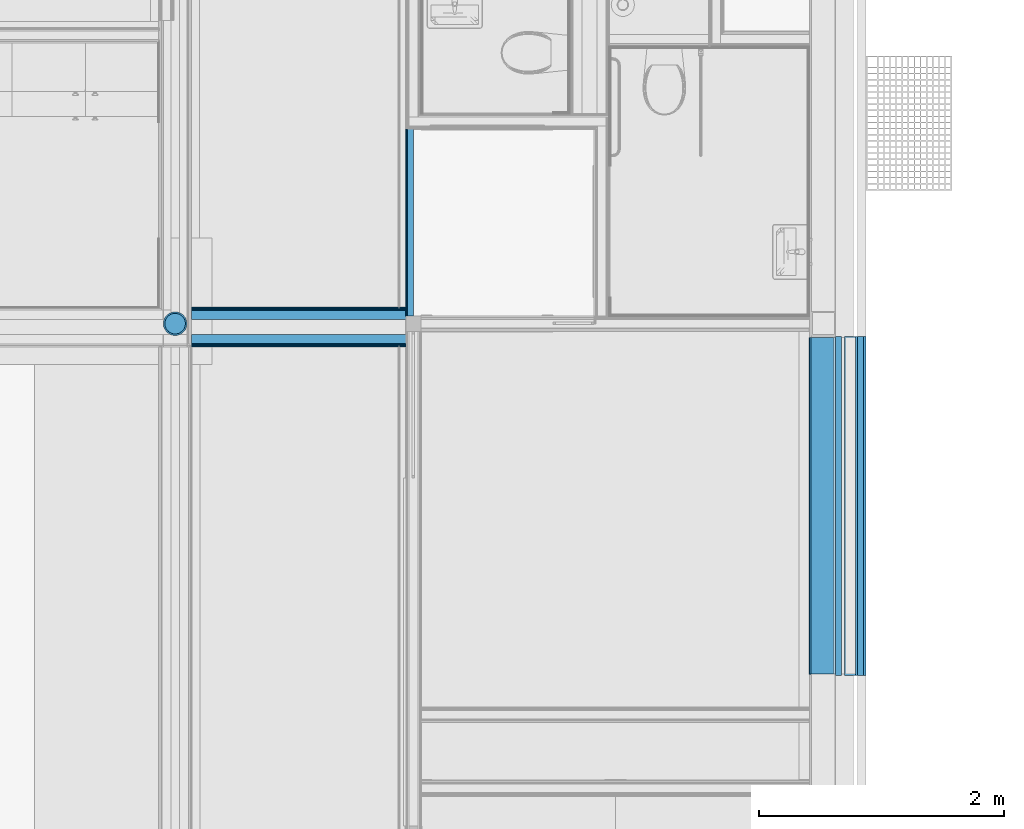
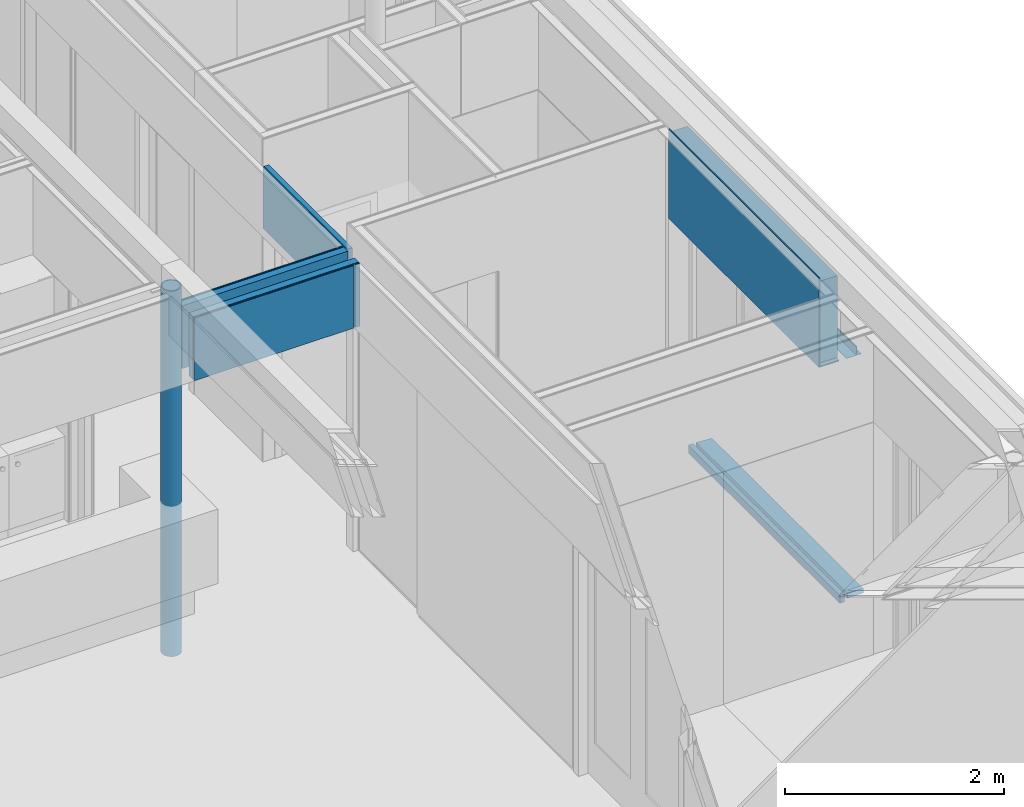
# One storey, part 70 of 165: 17 building element parts, 6 elements without a shape of their own.
"""IFC2X3 building model written with IfcOpenShell, lengths in millimetres."""

from ifc_helpers import new_model, entity, si_unit, converted_unit, derived_unit, money_unit, direction, frame, origin_with_axes, place, context, subcontext, project, spatial, faceted_brep, material, type_object, element, aggregate, save


model = new_model("IFC2X3")

# Units and contexts
model_context = context("Model", 3, precision=0.01, world=origin_with_axes(), true_north=direction((0.0, 1.0)))
body_context = subcontext(model_context, "Body", "Model", "MODEL_VIEW")
ifc_project = project(units=[si_unit("LENGTHUNIT", "METRE", prefix="MILLI"), si_unit("AREAUNIT", "SQUARE_METRE"), si_unit("VOLUMEUNIT", "CUBIC_METRE"), converted_unit("PLANEANGLEUNIT", "DEGREE", entity("IfcPlaneAngleMeasure", 0.0174532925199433), si_unit("PLANEANGLEUNIT", "RADIAN"), dimensions=[0, 0, 0, 0, 0, 0, 0]), money_unit("EUR"), converted_unit("TIMEUNIT", "Year", entity("IfcTimeMeasure", 31556926.0), si_unit("TIMEUNIT", "SECOND"), dimensions=[0, 0, 1, 0, 0, 0, 0]), si_unit("MASSUNIT", "GRAM", prefix="KILO"), si_unit("THERMODYNAMICTEMPERATUREUNIT", "DEGREE_CELSIUS"), si_unit("LUMINOUSINTENSITYUNIT", "LUMEN"), si_unit("ENERGYUNIT", "JOULE", prefix="MEGA"), derived_unit("THERMALCONDUCTANCEUNIT", [(si_unit("POWERUNIT", "WATT"), 1), (si_unit("LENGTHUNIT", "METRE"), -1), (si_unit("THERMODYNAMICTEMPERATUREUNIT", "KELVIN"), -1)]), derived_unit("SPECIFICHEATCAPACITYUNIT", [(si_unit("ENERGYUNIT", "JOULE"), 1), (si_unit("MASSUNIT", "GRAM", prefix="KILO"), -1), (si_unit("THERMODYNAMICTEMPERATUREUNIT", "KELVIN"), -1)]), derived_unit("MASSDENSITYUNIT", [(si_unit("MASSUNIT", "GRAM", prefix="KILO"), 1), (si_unit("VOLUMEUNIT", "CUBIC_METRE"), -1)])], contexts=[model_context])

# Site, building, storey
site_placement = place(None, origin_with_axes())
site = spatial("IfcSite", under=ifc_project, at=site_placement, Name="Site", CompositionType="ELEMENT")
building_placement = place(site_placement, origin_with_axes())
building = spatial("IfcBuilding", under=site, at=building_placement, Name="Naam gebouw", CompositionType="ELEMENT")
storey_placement = place(building_placement, origin_with_axes())
storey = spatial("IfcBuildingStorey", under=building, at=storey_placement, Name="Begane grond", CompositionType="ELEMENT", Elevation=0.0)

# Column, building element parts
column_type = type_object("IfcColumnType", Name="193.7X12.5 194 x 194", PredefinedType="COLUMN")
column_placement = place(storey_placement, frame((24499.99903999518, 10810.00011055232, -480.0), z_axis=(0.0, 0.0, 1.0), x_axis=(1.0, 0.0, 0.0)))
column = element("IfcColumn", 1, at=column_placement, inside=storey, type_object=column_type, Name="28_Kolom-x", ObjectType="COLUMN")
ifc_material_1 = material(Name="Beton gewapend C")
building_element_part_1_placement = place(column_placement, origin_with_axes())
building_element_part_1 = element("IfcBuildingElementPart", 2, at=building_element_part_1_placement, material=ifc_material_1, Name="Beton gewapend C", context=body_context, shape_type="Brep", body=[
    faceted_brep([(80.93323232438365, 23.7641411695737, 4060.000029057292), (84.35000000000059, 0.0, 4060.000029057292), (84.35000000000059, 0.0, 0.0), (80.93323232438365, 23.7641411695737, 0.0), (70.95973549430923, 45.6030529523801, 4060.000029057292), (55.23750290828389, 63.74747659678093, 4060.000029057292), (35.04025634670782, 76.72745880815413, 4060.000029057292), (12.00425660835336, 83.49143862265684, 4060.000029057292), (-12.00425660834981, 83.49143862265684, 4060.000029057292), (-35.04025634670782, 76.72745880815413, 4060.000029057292), (-55.23750290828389, 63.74747659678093, 4060.000029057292), (-70.95973549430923, 45.6030529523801, 4060.000029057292), (-80.93323232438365, 23.76414116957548, 4060.000029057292), (-84.35000000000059, 0.0, 4060.000029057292), (-80.93323232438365, -23.7641411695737, 4060.0), (-70.95973549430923, -45.6030529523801, 4060.0), (-55.23750290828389, -63.74747659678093, 4060.0), (-35.04025634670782, -76.72745880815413, 4060.0), (-12.00425660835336, -83.49143862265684, 4060.0), (12.00425660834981, -83.49143862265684, 4060.0), (35.04025634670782, -76.72745880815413, 4060.0), (55.23750290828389, -63.74747659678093, 4060.0), (70.95973549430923, -45.6030529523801, 4060.0), (80.93323232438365, -23.76414116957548, 4060.0), (80.93323232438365, -23.76414116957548, 0.0), (70.95973549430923, 45.6030529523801, 0.0), (70.95973549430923, -45.6030529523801, 0.0), (55.23750290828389, -63.74747659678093, 0.0), (35.04025634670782, -76.72745880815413, 0.0), (12.00425660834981, -83.49143862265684, 0.0), (-12.00425660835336, -83.49143862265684, 0.0), (-35.04025634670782, -76.72745880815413, 0.0), (-55.23750290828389, -63.74747659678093, 0.0), (-70.95973549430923, -45.6030529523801, 0.0), (-80.93323232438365, -23.7641411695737, 0.0), (-84.35000000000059, 0.0, 0.0), (-80.93323232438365, 23.76414116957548, 0.0), (-70.95973549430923, 45.6030529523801, 0.0), (-55.23750290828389, 63.74747659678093, 0.0), (-35.04025634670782, 76.72745880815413, 0.0), (-12.00425660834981, 83.49143862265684, 0.0), (12.00425660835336, 83.49143862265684, 0.0), (35.04025634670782, 76.72745880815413, 0.0), (55.23750290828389, 63.74747659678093, 0.0)], [[[0, 1, 2, 3]], [[1, 0, 4, 5, 6, 7, 8, 9, 10, 11, 12, 13, 14, 15, 16, 17, 18, 19, 20, 21, 22, 23]], [[1, 23, 24, 2]], [[25, 3, 2, 24, 26, 27, 28, 29, 30, 31, 32, 33, 34, 35, 36, 37, 38, 39, 40, 41, 42, 43]], [[4, 0, 3, 25]], [[5, 4, 25, 43]], [[6, 5, 43, 42]], [[7, 6, 42, 41]], [[8, 7, 41, 40]], [[9, 8, 40, 39]], [[10, 9, 39, 38]], [[11, 10, 38, 37]], [[12, 11, 37, 36]], [[13, 12, 36, 35]], [[14, 13, 35, 34]], [[15, 14, 34, 33]], [[16, 15, 33, 32]], [[17, 16, 32, 31]], [[18, 17, 31, 30]], [[19, 18, 30, 29]], [[20, 19, 29, 28]], [[21, 20, 28, 27]], [[22, 21, 27, 26]], [[23, 22, 26, 24]]]),
    faceted_brep([(-84.35000000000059, 0.0, 4075.000029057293), (-80.93323232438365, 23.76414116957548, 4075.000029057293), (-70.95973549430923, 45.6030529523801, 4075.000029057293), (-55.23750290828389, 63.74747659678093, 4075.000029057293), (-35.04025634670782, 76.72745880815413, 4075.000029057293), (-12.00425660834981, 83.49143862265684, 4075.000029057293), (12.00425660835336, 83.49143862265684, 4075.000029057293), (35.04025634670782, 76.72745880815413, 4075.000029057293), (55.23750290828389, 63.74747659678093, 4075.000029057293), (70.95973549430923, 45.6030529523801, 4075.000029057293), (80.93323232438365, 23.7641411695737, 4075.000029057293), (84.35000000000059, 0.0, 4075.000029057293), (80.93323232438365, -23.76414116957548, 4074.999999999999), (70.95973549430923, -45.6030529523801, 4074.999999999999), (55.23750290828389, -63.74747659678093, 4074.999999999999), (35.04025634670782, -76.72745880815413, 4074.999999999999), (12.00425660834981, -83.49143862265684, 4074.999999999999), (-12.00425660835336, -83.49143862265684, 4074.999999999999), (-35.04025634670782, -76.72745880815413, 4074.999999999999), (-55.23750290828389, -63.74747659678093, 4074.999999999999), (-70.95973549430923, -45.6030529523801, 4074.999999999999), (-80.93323232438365, -23.7641411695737, 4074.999999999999), (-84.35000000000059, 0.0, 4079.999999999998), (-80.93323232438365, 23.76414116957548, 4079.999999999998), (-70.95973549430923, 45.6030529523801, 4079.999999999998), (-55.23750290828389, 63.74747659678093, 4079.999999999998), (-35.04025634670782, 76.72745880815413, 4079.999999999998), (-12.00425660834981, 83.49143862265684, 4079.999999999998), (12.00425660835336, 83.49143862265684, 4079.999999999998), (35.04025634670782, 76.72745880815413, 4079.999999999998), (55.23750290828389, 63.74747659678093, 4079.999999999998), (70.95973549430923, 45.6030529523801, 4079.999999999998), (80.93323232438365, 23.7641411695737, 4079.999999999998), (84.35000000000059, 0.0, 4079.999999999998), (80.93323232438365, -23.76414116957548, 4079.999999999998), (70.95973549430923, -45.6030529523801, 4079.999999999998), (55.23750290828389, -63.74747659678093, 4079.999999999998), (35.04025634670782, -76.72745880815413, 4079.999999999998), (12.00425660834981, -83.49143862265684, 4079.999999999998), (-12.00425660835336, -83.49143862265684, 4079.999999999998), (-35.04025634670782, -76.72745880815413, 4079.999999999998), (-55.23750290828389, -63.74747659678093, 4079.999999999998), (-70.95973549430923, -45.6030529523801, 4079.999999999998), (-80.93323232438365, -23.7641411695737, 4079.999999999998)], [[[0, 1, 2, 3, 4, 5, 6, 7, 8, 9, 10, 11, 12, 13, 14, 15, 16, 17, 18, 19, 20, 21]], [[1, 0, 22, 23]], [[2, 1, 23, 24]], [[3, 2, 24, 25]], [[4, 3, 25, 26]], [[5, 4, 26, 27]], [[6, 5, 27, 28]], [[7, 6, 28, 29]], [[8, 7, 29, 30]], [[9, 8, 30, 31]], [[10, 9, 31, 32]], [[11, 10, 32, 33]], [[12, 11, 33, 34]], [[13, 12, 34, 35]], [[14, 13, 35, 36]], [[15, 14, 36, 37]], [[16, 15, 37, 38]], [[17, 16, 38, 39]], [[18, 17, 39, 40]], [[19, 18, 40, 41]], [[20, 19, 41, 42]], [[21, 20, 42, 43]], [[0, 21, 43, 22]], [[35, 34, 33, 32, 31, 30, 29, 28, 27, 26, 25, 24, 23, 22, 43, 42, 41, 40, 39, 38, 37, 36]]]),
])
ifc_material_2 = material(Name="Metaal - Staal C")
building_element_part_2_placement = place(column_placement, origin_with_axes())
building_element_part_2 = element("IfcBuildingElementPart", 3, at=building_element_part_2_placement, material=ifc_material_2, Name="Metaal - Staal C", context=body_context, shape_type="Brep", body=[
    faceted_brep([(96.84999999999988, 0.0, 0.0), (92.92689449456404, 27.28579813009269, 0.0), (92.92689449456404, 27.28579813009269, 4079.999999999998), (96.84999999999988, 0.0, 4079.999999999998), (92.92689449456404, -27.28579813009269, 0.0), (81.47540465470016, -52.36106317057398, 0.0), (63.42326208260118, -73.19434627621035, 0.0), (40.23294400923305, -88.09785875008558, 0.0), (13.78319208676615, -95.86420664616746, 0.0), (-13.78319208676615, -95.86420664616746, 0.0), (-40.23294400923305, -88.09785875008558, 0.0), (-63.42326208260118, -73.19434627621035, 0.0), (-81.47540465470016, -52.36106317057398, 0.0), (-92.92689449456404, -27.28579813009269, 0.0), (-96.84999999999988, 0.0, 0.0), (-92.92689449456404, 27.28579813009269, 0.0), (-81.47540465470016, 52.36106317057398, 0.0), (-63.42326208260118, 73.19434627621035, 0.0), (-40.23294400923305, 88.09785875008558, 0.0), (-13.78319208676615, 95.86420664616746, 0.0), (13.78319208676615, 95.86420664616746, 0.0), (40.23294400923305, 88.09785875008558, 0.0), (63.42326208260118, 73.19434627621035, 0.0), (81.47540465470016, 52.36106317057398, 0.0), (84.35000000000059, 0.0, 0.0), (80.93323232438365, 23.76414116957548, 0.0), (70.95973549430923, 45.6030529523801, 0.0), (55.23750290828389, 63.74747659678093, 0.0), (35.04025634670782, 76.72745880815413, 0.0), (12.00425660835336, 83.49143862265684, 0.0), (-12.00425660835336, 83.49143862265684, 0.0), (-35.04025634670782, 76.72745880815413, 0.0), (-55.23750290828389, 63.74747659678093, 0.0), (-70.95973549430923, 45.6030529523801, 0.0), (-80.93323232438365, 23.76414116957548, 0.0), (-84.35000000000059, 0.0, 0.0), (-80.93323232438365, -23.7641411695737, 0.0), (-70.95973549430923, -45.6030529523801, 0.0), (-55.23750290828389, -63.74747659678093, 0.0), (-35.04025634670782, -76.72745880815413, 0.0), (-12.00425660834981, -83.49143862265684, 0.0), (12.00425660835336, -83.49143862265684, 0.0), (35.04025634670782, -76.72745880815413, 0.0), (55.23750290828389, -63.74747659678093, 0.0), (70.95973549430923, -45.6030529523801, 0.0), (80.93323232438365, -23.7641411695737, 0.0), (81.47540465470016, 52.36106317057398, 4079.999999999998), (63.42326208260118, 73.19434627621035, 4079.999999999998), (40.23294400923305, 88.09785875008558, 4079.999999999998), (13.78319208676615, 95.86420664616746, 4079.999999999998), (-13.78319208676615, 95.86420664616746, 4079.999999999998), (-40.23294400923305, 88.09785875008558, 4079.999999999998), (-63.42326208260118, 73.19434627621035, 4079.999999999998), (-81.47540465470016, 52.36106317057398, 4079.999999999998), (-92.92689449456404, 27.28579813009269, 4079.999999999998), (-96.84999999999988, 0.0, 4079.999999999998), (-92.92689449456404, -27.28579813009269, 4079.999999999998), (-81.47540465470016, -52.36106317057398, 4079.999999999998), (-63.42326208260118, -73.19434627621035, 4079.999999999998), (-40.23294400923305, -88.09785875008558, 4079.999999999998), (-13.78319208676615, -95.86420664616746, 4079.999999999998), (13.78319208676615, -95.86420664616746, 4079.999999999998), (40.23294400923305, -88.09785875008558, 4079.999999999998), (63.42326208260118, -73.19434627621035, 4079.999999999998), (81.47540465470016, -52.36106317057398, 4079.999999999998), (92.92689449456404, -27.28579813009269, 4079.999999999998), (84.35000000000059, 0.0, 4079.999999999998), (80.93323232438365, -23.7641411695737, 4079.999999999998), (70.95973549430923, -45.6030529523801, 4079.999999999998), (55.23750290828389, -63.74747659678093, 4079.999999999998), (35.04025634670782, -76.72745880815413, 4079.999999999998), (12.00425660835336, -83.49143862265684, 4079.999999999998), (-12.00425660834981, -83.49143862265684, 4079.999999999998), (-35.04025634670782, -76.72745880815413, 4079.999999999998), (-55.23750290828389, -63.74747659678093, 4079.999999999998), (-70.95973549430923, -45.6030529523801, 4079.999999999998), (-80.93323232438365, -23.7641411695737, 4079.999999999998), (-84.35000000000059, 0.0, 4079.999999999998), (-80.93323232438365, 23.76414116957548, 4079.999999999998), (-70.95973549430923, 45.6030529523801, 4079.999999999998), (-55.23750290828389, 63.74747659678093, 4079.999999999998), (-35.04025634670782, 76.72745880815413, 4079.999999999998), (-12.00425660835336, 83.49143862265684, 4079.999999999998), (12.00425660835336, 83.49143862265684, 4079.999999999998), (35.04025634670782, 76.72745880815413, 4079.999999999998), (55.23750290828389, 63.74747659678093, 4079.999999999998), (70.95973549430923, 45.6030529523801, 4079.999999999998), (80.93323232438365, 23.76414116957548, 4079.999999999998)], [[[0, 1, 2, 3]], [[0, 4, 5, 6, 7, 8, 9, 10, 11, 12, 13, 14, 15, 16, 17, 18, 19, 20, 21, 22, 23, 1], [24, 25, 26, 27, 28, 29, 30, 31, 32, 33, 34, 35, 36, 37, 38, 39, 40, 41, 42, 43, 44, 45]], [[1, 23, 46, 2]], [[3, 2, 46, 47, 48, 49, 50, 51, 52, 53, 54, 55, 56, 57, 58, 59, 60, 61, 62, 63, 64, 65], [66, 67, 68, 69, 70, 71, 72, 73, 74, 75, 76, 77, 78, 79, 80, 81, 82, 83, 84, 85, 86, 87]], [[4, 0, 3, 65]], [[5, 4, 65, 64]], [[6, 5, 64, 63]], [[7, 6, 63, 62]], [[8, 7, 62, 61]], [[9, 8, 61, 60]], [[10, 9, 60, 59]], [[11, 10, 59, 58]], [[12, 11, 58, 57]], [[13, 12, 57, 56]], [[14, 13, 56, 55]], [[15, 14, 55, 54]], [[16, 15, 54, 53]], [[17, 16, 53, 52]], [[18, 17, 52, 51]], [[19, 18, 51, 50]], [[20, 19, 50, 49]], [[21, 20, 49, 48]], [[22, 21, 48, 47]], [[23, 22, 47, 46]], [[25, 24, 66, 87]], [[26, 25, 87, 86]], [[27, 26, 86, 85]], [[28, 27, 85, 84]], [[29, 28, 84, 83]], [[30, 29, 83, 82]], [[31, 30, 82, 81]], [[32, 31, 81, 80]], [[33, 32, 80, 79]], [[34, 33, 79, 78]], [[35, 34, 78, 77]], [[36, 35, 77, 76]], [[37, 36, 76, 75]], [[38, 37, 75, 74]], [[39, 38, 74, 73]], [[40, 39, 73, 72]], [[41, 40, 72, 71]], [[42, 41, 71, 70]], [[43, 42, 70, 69]], [[44, 43, 69, 68]], [[45, 44, 68, 67]], [[24, 45, 67, 66]]]),
])
aggregate(column, [building_element_part_1, building_element_part_2])

# Beam, building element parts
beam_type_1 = type_object("IfcBeamType", Name="41 Latei/geveldrager 158 x 112", PredefinedType="BEAM")
beam_1_placement = place(storey_placement, frame((30080.00006561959, 10705.00011055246, 2610.0), z_axis=(0.0, 0.0, 1.0), x_axis=(-1.0, 0.0, 0.0)))
beam_1 = element("IfcBeam", 4, at=beam_1_placement, inside=storey, type_object=beam_type_1, Name="_Regenwaterafvoer-x", ObjectType="BEAM")
building_element_part_3_placement = place(beam_1_placement, origin_with_axes())
building_element_part_3 = element("IfcBuildingElementPart", 5, at=building_element_part_3_placement, material=ifc_material_2, Name="Metaal - Staal C", context=body_context, shape_type="Brep", body=[
    faceted_brep([(3.000000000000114, 2770.0, -3.000000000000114), (108.0000000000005, 2770.0, -3.000000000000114), (108.0000000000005, 0.0, -3.000000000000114), (3.000000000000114, 0.0, -3.000000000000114), (3.000000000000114, 2770.0, 0.0), (108.0000000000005, 2770.0, 0.0), (108.0000000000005, 0.0, 0.0), (3.000000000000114, 0.0, 0.0)], [[[0, 1, 2, 3]], [[0, 4, 5, 1]], [[1, 5, 6, 2]], [[3, 2, 6, 7]], [[4, 0, 3, 7]], [[5, 4, 7, 6]]]),
])
building_element_part_4_placement = place(beam_1_placement, origin_with_axes())
building_element_part_4 = element("IfcBuildingElementPart", 6, at=building_element_part_4_placement, material=ifc_material_2, Name="Metaal - Staal C", context=body_context, shape_type="Brep", body=[
    faceted_brep([(-50.00000000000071, 2770.0, 6.55651533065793e-07), (-50.00000000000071, 2770.0, -3.000000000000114), (-50.00000000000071, 0.0, -3.000000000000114), (-50.00000000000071, 0.0, 6.55651533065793e-07), (-5.9603877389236e-08, 2770.0, 6.55651533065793e-07), (-5.9603877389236e-08, 2770.0, 99.3417707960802), (16.54654975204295, 2770.0, 108.894926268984), (18.04655007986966, 2770.0, 106.296849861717), (3.000000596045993, 2770.0, 96.99999988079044), (3.000000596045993, 2770.0, 6.55651533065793e-07), (3.000000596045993, 2770.0, -3.000000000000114), (3.000000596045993, 0.0, -3.000000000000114), (3.000000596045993, 0.0, 6.55651533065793e-07), (3.000000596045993, 0.0, 96.99999988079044), (18.04655007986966, 0.0, 106.296849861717), (16.54654975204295, 0.0, 108.894926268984), (-5.9603877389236e-08, 0.0, 99.3417707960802), (-5.9603877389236e-08, 0.0, 6.55651533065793e-07)], [[[0, 1, 2, 3]], [[0, 4, 5, 6, 7, 8, 9, 10, 1]], [[1, 10, 11, 2]], [[3, 2, 11, 12, 13, 14, 15, 16, 17]], [[4, 0, 3, 17]], [[5, 4, 17, 16]], [[6, 5, 16, 15]], [[7, 6, 15, 14]], [[8, 7, 14, 13]], [[9, 8, 13, 12]], [[10, 9, 12, 11]]]),
])
aggregate(beam_1, [building_element_part_3, building_element_part_4])

beam_type_2 = type_object("IfcBeamType", Name="31 Betondorpel 250 x 90", PredefinedType="BEAM")
beam_2_placement = place(storey_placement, frame((30150.0, 10705.00011055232, -100.0000000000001), z_axis=(0.0, 0.0, 1.0), x_axis=(-1.0, 0.0, 0.0)))
beam_2 = element("IfcBeam", 7, at=beam_2_placement, inside=storey, type_object=beam_type_2, Name="_Regenwaterafvoer-x", ObjectType="BEAM")
ifc_material_3 = material(Name="Beton gewapend prefab")
building_element_part_5_placement = place(beam_2_placement, origin_with_axes())
building_element_part_5 = element("IfcBuildingElementPart", 8, at=building_element_part_5_placement, material=ifc_material_3, Name="Beton gewapend prefab", context=body_context, shape_type="Brep", body=[
    faceted_brep([(0.0, 2770.0, 30.04212834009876), (169.9999999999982, 2770.0, 30.04212834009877), (170.0000000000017, 0.0, 30.04212834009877), (0.0, 0.0, 30.04212834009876), (0.0, 2770.0, 80.04212834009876), (169.9999999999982, 2770.0, 90.04212834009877), (169.9999999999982, 2770.0, 90.00000000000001), (170.0000000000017, 0.0, 90.00000000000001), (170.0000000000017, 0.0, 90.04212834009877), (0.0, 0.0, 80.04212834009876)], [[[0, 1, 2, 3]], [[0, 4, 5, 6, 1]], [[1, 6, 7, 2]], [[3, 2, 7, 8, 9]], [[4, 0, 3, 9]], [[5, 4, 9, 8]], [[6, 5, 8, 7]]]),
])
ifc_material_4 = material(Name="Isolatie - Kunststof hard")
building_element_part_6_placement = place(beam_2_placement, origin_with_axes())
building_element_part_6 = element("IfcBuildingElementPart", 9, at=building_element_part_6_placement, material=ifc_material_4, Name="Isolatie - Kunststof hard", context=body_context, shape_type="Brep", body=[
    faceted_brep([(199.9999999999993, 2770.0, 0.0), (250.0, 2770.0, 0.0), (250.0, 0.0, 0.0), (199.9999999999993, 0.0, 0.0), (199.9999999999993, 2770.0, 30.04212815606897), (199.9999999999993, 2770.0, 90.00000000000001), (250.0, 2770.0, 90.00000000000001), (250.0, 0.0, 90.00000000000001), (199.9999999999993, 0.0, 90.00000000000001), (199.9999999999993, 0.0, 30.04212815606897)], [[[0, 1, 2, 3]], [[0, 4, 5, 6, 1]], [[1, 6, 7, 2]], [[3, 2, 7, 8, 9]], [[4, 0, 3, 9]], [[5, 4, 9, 8]], [[6, 5, 8, 7]]]),
])
aggregate(beam_2, [building_element_part_5, building_element_part_6])

# Proxy, building element parts
building_element_proxy_type_1 = type_object("IfcBuildingElementProxyType", Name="22 Metal stud 62.5 plafond 63", PredefinedType="NOTDEFINED")
proxy_1_placement = place(storey_placement, frame((26386.00000000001, 12399.99820714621, 2600.0), z_axis=(0.0, 0.0, 1.0), x_axis=(0.0, -1.0, 0.0)))
proxy_1 = element("IfcBuildingElementProxy", 10, at=proxy_1_placement, inside=storey, type_object=building_element_proxy_type_1, Name="_Wand-x")
ifc_material_5 = material(Name="Gipsplaat")
building_element_part_7_placement = place(proxy_1_placement, origin_with_axes())
building_element_part_7 = element("IfcBuildingElementPart", 11, at=building_element_part_7_placement, material=ifc_material_5, Name="Gipsplaat", context=body_context, shape_type="Brep", body=[
    faceted_brep([(1527.499106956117, 12.5000000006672, 12.00000000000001), (-8.27352053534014e-06, 12.49999999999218, 12.00000000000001), (0.0, 12.49999999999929, 699.9999999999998), (1527.49809659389, 12.49999999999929, 699.9999999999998), (0.0, 0.0, 12.00000000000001), (1527.499115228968, 0.001011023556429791, 12.00000000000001), (0.0, 0.0, 699.9999999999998), (1527.49809659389, 0.0, 699.9999999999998)], [[[0, 1, 2, 3]], [[4, 1, 0, 5]], [[1, 4, 6, 2]], [[6, 7, 3, 2]], [[5, 0, 3, 7]], [[4, 5, 7, 6]]]),
])
ifc_material_6 = material(Name="ALG - LICHTE SCHEIDINGSWAND")
building_element_part_8_placement = place(proxy_1_placement, origin_with_axes())
building_element_part_8 = element("IfcBuildingElementPart", 12, at=building_element_part_8_placement, material=ifc_material_6, Name="ALG - LICHTE SCHEIDINGSWAND", context=body_context, shape_type="Brep", body=[
    faceted_brep([(1527.499073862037, 62.50000000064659, 12.00000000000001), (-4.136759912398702e-05, 62.49999999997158, 12.00000000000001), (0.0, 62.5, 699.9999999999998), (1527.49809659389, 62.5, 699.9999999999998), (-8.27352053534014e-06, 12.49999999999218, 12.00000000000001), (1527.499106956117, 12.5000000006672, 12.00000000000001), (0.0, 12.49999999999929, 699.9999999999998), (1527.49809659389, 12.49999999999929, 699.9999999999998)], [[[0, 1, 2, 3]], [[4, 1, 0, 5]], [[1, 4, 6, 2]], [[6, 7, 3, 2]], [[5, 0, 3, 7]], [[4, 5, 7, 6]]]),
])
aggregate(proxy_1, [building_element_part_7, building_element_part_8])

building_element_proxy_type_2 = type_object("IfcBuildingElementProxyType", Name="22 Metal stud 325 325", PredefinedType="NOTDEFINED")
proxy_2_placement = place(storey_placement, frame((24634.99910285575, 10620.00011055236, 2600.0), z_axis=(0.0, 0.0, 1.0), x_axis=(1.0, 0.0, 0.0)))
proxy_2 = element("IfcBuildingElementProxy", 13, at=proxy_2_placement, inside=storey, type_object=building_element_proxy_type_2, Name="_Wand-x")
building_element_part_9_placement = place(proxy_2_placement, origin_with_axes())
building_element_part_9 = element("IfcBuildingElementPart", 14, at=building_element_part_9_placement, material=ifc_material_5, Name="Gipsplaat", context=body_context, shape_type="Brep", body=[
    faceted_brep([(1751.000960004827, 324.9999999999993, 0.0), (1751.000960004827, 312.5, 0.0), (1701.000897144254, 312.5, 0.0), (1701.000897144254, 324.9999999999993, 0.0), (1751.000960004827, 324.9999999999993, 699.9999999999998), (1751.000960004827, 312.5, 699.9999999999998), (1701.000897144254, 312.5, 699.9999999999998), (1701.000897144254, 324.9999999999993, 699.9999999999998)], [[[0, 1, 2, 3]], [[0, 4, 5, 1]], [[1, 5, 6, 2]], [[3, 2, 6, 7]], [[4, 0, 3, 7]], [[5, 4, 7, 6]]]),
    faceted_brep([(1688.500897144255, 312.5, 0.0), (0.0, 312.5, 0.0), (0.0, 324.9999999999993, 0.0), (1688.500897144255, 324.9999999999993, 0.0), (1688.500897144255, 312.5, 699.9999999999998), (0.0, 312.5, 699.9999999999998), (0.0, 324.9999999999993, 699.9999999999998), (1688.500897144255, 324.9999999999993, 699.9999999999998)], [[[0, 1, 2, 3]], [[4, 5, 1, 0]], [[2, 1, 5, 6]], [[3, 2, 6, 7]], [[3, 7, 4, 0]], [[7, 6, 5, 4]]]),
])
building_element_part_10_placement = place(proxy_2_placement, origin_with_axes())
building_element_part_10 = element("IfcBuildingElementPart", 15, at=building_element_part_10_placement, material=ifc_material_5, Name="Gipsplaat", context=body_context, shape_type="Brep", body=[
    faceted_brep([(1751.000960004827, 312.5, 0.0), (1751.000960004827, 300.0000000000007, 0.0), (0.0, 300.0000000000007, 0.0), (0.0, 312.5, 0.0), (1751.000960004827, 312.5, 699.9999999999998), (1751.000960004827, 300.0000000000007, 699.9999999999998), (0.0, 300.0000000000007, 699.9999999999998), (0.0, 312.5, 699.9999999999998)], [[[0, 1, 2, 3]], [[0, 4, 5, 1]], [[1, 5, 6, 2]], [[3, 2, 6, 7]], [[4, 0, 3, 7]], [[5, 4, 7, 6]]]),
])
building_element_part_11_placement = place(proxy_2_placement, origin_with_axes())
building_element_part_11 = element("IfcBuildingElementPart", 16, at=building_element_part_11_placement, material=ifc_material_5, Name="Gipsplaat", context=body_context, shape_type="Brep", body=[
    faceted_brep([(1751.000960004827, 25.00000000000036, 0.0), (1751.000960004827, 12.49999999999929, 0.0), (0.0, 12.49999999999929, 0.0), (0.0, 25.00000000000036, 0.0), (1751.000960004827, 25.00000000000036, 699.9999999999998), (1751.000960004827, 12.49999999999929, 699.9999999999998), (0.0, 12.49999999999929, 699.9999999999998), (0.0, 25.00000000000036, 699.9999999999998)], [[[0, 1, 2, 3]], [[0, 4, 5, 1]], [[1, 5, 6, 2]], [[3, 2, 6, 7]], [[4, 0, 3, 7]], [[5, 4, 7, 6]]]),
])
building_element_part_12_placement = place(proxy_2_placement, origin_with_axes())
building_element_part_12 = element("IfcBuildingElementPart", 17, at=building_element_part_12_placement, material=ifc_material_6, Name="ALG - LICHTE SCHEIDINGSWAND", context=body_context, shape_type="Brep", body=[
    faceted_brep([(1751.000960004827, 99.99999999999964, 0.0), (1751.000960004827, 25.00000000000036, 0.0), (0.0, 25.00000000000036, 0.0), (0.0, 99.99999999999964, 0.0), (1751.000960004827, 99.99999999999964, 699.9999999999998), (1751.000960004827, 25.00000000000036, 699.9999999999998), (0.0, 25.00000000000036, 699.9999999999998), (0.0, 99.99999999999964, 699.9999999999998)], [[[0, 1, 2, 3]], [[0, 4, 5, 1]], [[1, 5, 6, 2]], [[3, 2, 6, 7]], [[4, 0, 3, 7]], [[5, 4, 7, 6]]]),
])
building_element_part_13_placement = place(proxy_2_placement, origin_with_axes())
building_element_part_13 = element("IfcBuildingElementPart", 18, at=building_element_part_13_placement, material=ifc_material_5, Name="Gipsplaat", context=body_context, shape_type="Brep", body=[
    faceted_brep([(1751.000960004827, 12.49999999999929, 0.0), (1751.000960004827, 0.0, 0.0), (1701.000897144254, 0.0, 0.0), (1701.000897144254, 12.49999999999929, 0.0), (1751.000960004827, 12.49999999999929, 699.9999999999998), (1751.000960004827, 0.0, 699.9999999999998), (1701.000897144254, 0.0, 699.9999999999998), (1701.000897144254, 12.49999999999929, 699.9999999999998)], [[[0, 1, 2, 3]], [[0, 4, 5, 1]], [[1, 5, 6, 2]], [[3, 2, 6, 7]], [[4, 0, 3, 7]], [[5, 4, 7, 6]]]),
    faceted_brep([(1688.500897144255, 0.0, 0.0), (0.0, 0.0, 0.0), (0.0, 12.49999999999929, 0.0), (1688.500897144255, 12.49999999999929, 0.0), (1688.500897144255, 0.0, 699.9999999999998), (0.0, 0.0, 699.9999999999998), (0.0, 12.49999999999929, 699.9999999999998), (1688.500897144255, 12.49999999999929, 699.9999999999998)], [[[0, 1, 2, 3]], [[4, 5, 1, 0]], [[2, 1, 5, 6]], [[3, 2, 6, 7]], [[3, 7, 4, 0]], [[7, 6, 5, 4]]]),
])
building_element_part_14_placement = place(proxy_2_placement, origin_with_axes())
building_element_part_14 = element("IfcBuildingElementPart", 19, at=building_element_part_14_placement, material=ifc_material_6, Name="ALG - LICHTE SCHEIDINGSWAND", context=body_context, shape_type="Brep", body=[
    faceted_brep([(1751.000960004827, 300.0000000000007, 0.0), (1751.000960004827, 224.9999999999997, 0.0), (0.0, 224.9999999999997, 0.0), (0.0, 300.0000000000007, 0.0), (1751.000960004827, 300.0000000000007, 699.9999999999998), (1751.000960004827, 224.9999999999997, 699.9999999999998), (0.0, 224.9999999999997, 699.9999999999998), (0.0, 300.0000000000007, 699.9999999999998)], [[[0, 1, 2, 3]], [[0, 4, 5, 1]], [[1, 5, 6, 2]], [[3, 2, 6, 7]], [[4, 0, 3, 7]], [[5, 4, 7, 6]]]),
])
aggregate(proxy_2, [building_element_part_9, building_element_part_10, building_element_part_11, building_element_part_12, building_element_part_13, building_element_part_14])

# Beam, building element parts
beam_type_3 = type_object("IfcBeamType", Name="31 HSB boven kozijnen 214 x 1000", PredefinedType="BEAM")
beam_3_placement = place(storey_placement, frame((29686.0, 7945.000110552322, 2600.000000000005), z_axis=(0.0, 0.0, 1.0), x_axis=(1.0, 0.0, 0.0)))
beam_3 = element("IfcBeam", 20, at=beam_3_placement, inside=storey, type_object=beam_type_3, Name="28_Balk-x", ObjectType="BEAM")
building_element_part_15_placement = place(beam_3_placement, origin_with_axes())
building_element_part_15 = element("IfcBuildingElementPart", 21, at=building_element_part_15_placement, material=ifc_material_5, Name="Gipsplaat", context=body_context, shape_type="Brep", body=[
    faceted_brep([(11.99999661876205, 2750.0, 12.00000596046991), (11.99999661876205, 2750.0, 0.0), (11.99999661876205, 0.0, 0.0), (11.99999661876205, 0.0, 12.00000596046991), (214.0000025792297, 2750.0, 12.00000596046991), (214.0000025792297, 2750.0, 0.0), (214.0000025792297, 0.0, 0.0), (214.0000025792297, 0.0, 12.00000596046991)], [[[0, 1, 2, 3]], [[0, 4, 5, 1]], [[1, 5, 6, 2]], [[3, 2, 6, 7]], [[4, 0, 3, 7]], [[5, 4, 7, 6]]]),
])
building_element_part_16_placement = place(beam_3_placement, origin_with_axes())
building_element_part_16 = element("IfcBuildingElementPart", 22, at=building_element_part_16_placement, material=ifc_material_5, Name="Gipsplaat", context=body_context, shape_type="Brep", body=[
    faceted_brep([(11.99999661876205, 2750.0, 999.9999999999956), (-9.341707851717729e-06, 2750.0, 999.9999999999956), (-9.341707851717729e-06, 0.0, 999.9999999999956), (11.99999661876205, 0.0, 999.9999999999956), (11.99999661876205, 2750.0, 0.0), (-9.341711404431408e-06, 2750.0, 0.0), (-9.341711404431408e-06, 0.0, 0.0), (11.99999661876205, 0.0, 0.0)], [[[0, 1, 2, 3]], [[0, 4, 5, 1]], [[1, 5, 6, 2]], [[3, 2, 6, 7]], [[4, 0, 3, 7]], [[5, 4, 7, 6]]]),
])
ifc_material_7 = material(Name="ALG - ISOLATIE")
building_element_part_17_placement = place(beam_3_placement, origin_with_axes())
building_element_part_17 = element("IfcBuildingElementPart", 23, at=building_element_part_17_placement, material=ifc_material_7, Name="ALG - ISOLATIE", context=body_context, shape_type="Brep", body=[
    faceted_brep([(195.999999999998, 2750.0, 49.99999999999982), (196.0000000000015, 2750.0, 961.9999999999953), (196.0000000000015, 0.0, 961.9999999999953), (195.999999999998, 0.0, 49.99999999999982), (12.00000000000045, 2750.0, 49.99999999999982), (12.00000000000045, 2750.0, 961.9999999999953), (12.00000000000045, 0.0, 961.9999999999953), (12.00000000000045, 0.0, 49.99999999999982)], [[[0, 1, 2, 3]], [[0, 4, 5, 1]], [[1, 5, 6, 2]], [[3, 2, 6, 7]], [[4, 0, 3, 7]], [[5, 4, 7, 6]]]),
])
aggregate(beam_3, [building_element_part_15, building_element_part_16, building_element_part_17])

save(model, "model.ifc")
